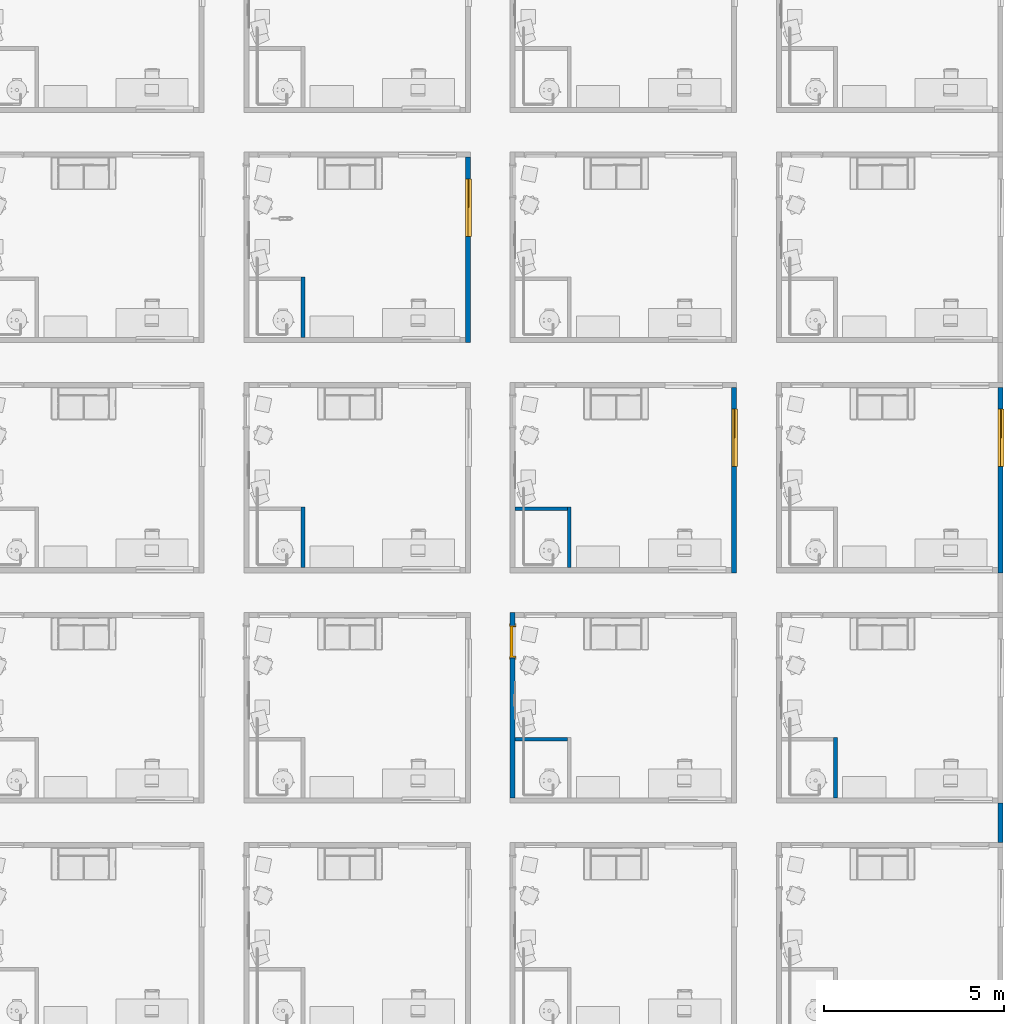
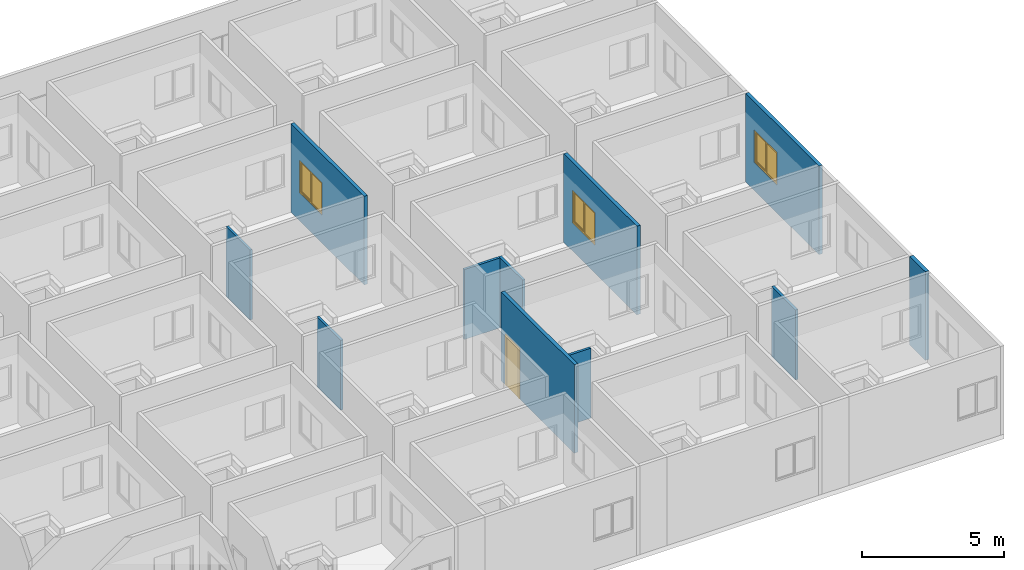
# One storey, part 9 of 71: 11 walls, 3 windows, 1 door, 4 openings.
"""IFC4 building model written with IfcOpenShell, lengths in centimetres."""

from ifc_helpers import new_model, entity, si_unit, converted_unit, derived_unit, direction, frame, origin, place, context, subcontext, project, spatial, indexed_curve, outline, extrude, polygons, source, transform, mapped, material, constituent, constituent_set, type_object, type_shapes, element, fill, save


model = new_model("IFC4")

# Units and contexts
model_context = context("Model", 3, precision=0.001, world=origin(), true_north=direction((6.123233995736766e-17, 1.0)))
body_context = subcontext(model_context, "Body", "Model", "MODEL_VIEW")
ifc_project = project(units=[si_unit("LENGTHUNIT", "METRE", prefix="CENTI"), si_unit("AREAUNIT", "SQUARE_METRE"), si_unit("VOLUMEUNIT", "CUBIC_METRE"), derived_unit("THERMALTRANSMITTANCEUNIT", [(si_unit("MASSUNIT", "GRAM", prefix="KILO"), 1), (si_unit("THERMODYNAMICTEMPERATUREUNIT", "KELVIN"), -1), (si_unit("TIMEUNIT", "SECOND"), -3)]), converted_unit("PLANEANGLEUNIT", "DEGREE", entity("IfcPlaneAngleMeasure", 0.017453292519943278), si_unit("PLANEANGLEUNIT", "RADIAN"), dimensions=[0, 0, 0, 0, 0, 0, 0]), derived_unit("MASSDENSITYUNIT", [(si_unit("MASSUNIT", "GRAM", prefix="KILO"), 1), (si_unit("LENGTHUNIT", "METRE"), -3)]), derived_unit("VAPORPERMEABILITYUNIT", [(si_unit("LENGTHUNIT", "METRE"), -1), (si_unit("TIMEUNIT", "SECOND"), 1)]), derived_unit("USERDEFINED", [(si_unit("MASSUNIT", "GRAM", prefix="KILO"), 1), (si_unit("TIMEUNIT", "SECOND"), -3), (si_unit("LENGTHUNIT", "METRE"), 3), (si_unit("ELECTRICCURRENTUNIT", "AMPERE"), -2)]), derived_unit("SPECIFICHEATCAPACITYUNIT", [(si_unit("THERMODYNAMICTEMPERATUREUNIT", "KELVIN"), -1), (si_unit("LENGTHUNIT", "METRE"), 2), (si_unit("TIMEUNIT", "SECOND"), -2)]), derived_unit("THERMALCONDUCTANCEUNIT", [(si_unit("MASSUNIT", "GRAM", prefix="KILO"), 1), (si_unit("THERMODYNAMICTEMPERATUREUNIT", "KELVIN"), -1), (si_unit("TIMEUNIT", "SECOND"), -3), (si_unit("LENGTHUNIT", "METRE"), 1)]), si_unit("PRESSUREUNIT", "PASCAL"), derived_unit("MODULUSOFELASTICITYUNIT", [(si_unit("MASSUNIT", "GRAM", prefix="KILO"), 1), (si_unit("LENGTHUNIT", "METRE"), -1), (si_unit("TIMEUNIT", "SECOND"), -2)]), derived_unit("THERMALEXPANSIONCOEFFICIENTUNIT", [(si_unit("THERMODYNAMICTEMPERATUREUNIT", "KELVIN"), -1)])], contexts=[model_context])

# Site, building, storey
site_placement = place(None, origin())
site = spatial("IfcSite", under=ifc_project, at=site_placement, Name="Default", CompositionType="ELEMENT")
building_placement = place(site_placement, origin())
building = spatial("IfcBuilding", under=site, at=building_placement, Name="IDS Escape Game Building", CompositionType="ELEMENT")
storey_placement = place(building_placement, frame((0.0, 0.0, 400.0)))
storey = spatial("IfcBuildingStorey", under=building, at=storey_placement, Name="01_First Floor", CompositionType="ELEMENT", Elevation=399.99999999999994)

# Wall, opening, door
ifc_material_1 = material(Name="ARC_FME.g2_Fg2 Masonry_00_gen_BERSnl", Category="g - klei")
wall_type_1 = type_object("IfcWallType", Name="Basic Wall:ARC_22.10_WA_LB_SB14_gen_BERSnl", PredefinedType="STANDARD")
wall_1_placement = place(storey_placement, frame((3690.0, 1165.0, 0.0), z_axis=(0.0, 0.0, 1.0), x_axis=(0.0, -1.0, 0.0)))
wall_1 = element("IfcWall", 1, at=wall_1_placement, inside=storey, type_object=wall_type_1, material=ifc_material_1, Name="Basic Wall:ARC_22.10_WA_LB_SB14_gen_BERSnl", ObjectType="Basic Wall:ARC_22.10_WA_LB_SB14_gen_BERSnl", PredefinedType="NOTDEFINED", context=body_context, shape_type="Tessellation", body=[
    polygons([(514.0000000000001, -6.999999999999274, 379.9999999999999), (0.0, -6.999999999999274, 379.9999999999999), (0.0, -6.999999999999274, 0.0), (35.99999999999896, -6.999999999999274, 0.0), (35.99999999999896, -6.999999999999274, 215.00000000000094), (125.99999999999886, -6.999999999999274, 215.00000000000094), (125.99999999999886, -6.999999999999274, 0.0), (514.0000000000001, -6.999999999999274, 0.0), (0.0, 7.000000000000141, 379.9999999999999), (14.000000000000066, 7.000000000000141, 380.0), (514.0000000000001, 7.000000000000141, 379.9999999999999), (514.0000000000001, 7.000000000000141, 0.0), (355.99999999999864, 7.000000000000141, 0.0), (345.99999999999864, 7.000000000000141, 0.0), (125.99999999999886, 7.000000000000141, 0.0), (125.99999999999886, 7.000000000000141, 215.00000000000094), (35.99999999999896, 7.000000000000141, 215.00000000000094), (35.99999999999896, 7.000000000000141, 0.0), (14.000000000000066, 7.000000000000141, 0.0), (0.0, 7.000000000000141, 0.0)], [[[1, 2, 3, 4, 5, 6, 7, 8]], [[9, 10, 11, 12, 13, 14, 15, 16, 17, 18, 19, 20]], [[3, 20, 19, 18, 4]], [[2, 1, 11, 10, 9]], [[17, 5, 4, 18]], [[6, 16, 15, 7]], [[5, 17, 16, 6]], [[3, 2, 9, 20]], [[1, 8, 12, 11]], [[12, 8, 7, 15, 14, 13]]], closed=True),
])
opening_1_placement = place(wall_1_placement, frame((1165.0, -3690.0, 0.0), z_axis=(0.0, 0.0, 1.0), x_axis=(0.0, 1.0, 0.0)))
opening_1 = element("IfcOpeningElement", 2, at=opening_1_placement, cuts=wall_1, Name="Basic Wall:ARC_22.10_WA_LB_SB14_gen_BERSnl", PredefinedType="OPENING", context=body_context, shape_type="SweptSolid", body=[
    extrude(outline(indexed_curve([(-137.49999999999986, -44.99999999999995), (137.49999999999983, -44.99999999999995), (137.49999999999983, 44.99999999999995), (-137.49999999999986, 44.99999999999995), (-137.49999999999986, -44.99999999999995)], self_intersect=False)), frame((3600.0, 1084.0, 77.50000000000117), z_axis=(1.0, 0.0, 0.0), x_axis=(0.0, 0.0, 1.0)), (0.0, 0.0, 1.0), 166.00000000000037),
])
ifc_material_2 = material(Name="ARC_FME.i3_wood_00_gen_BERSnl", Category="i - hout")
door_type = type_object("IfcDoorType", Name="ARC_32.30_DO_WB_binnendeur enkel draaiend met void_gen_BERSnl:Fire Exit_830x2115_EI60", OperationType="SINGLE_SWING_RIGHT", PredefinedType="DOOR", material=ifc_material_2)
shared_shape_1 = source(origin(), body_context, "Body", "Tessellation", [
    extrude(outline(indexed_curve([(-41.49999999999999, -3.749999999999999), (41.49999999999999, -3.749999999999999), (41.49999999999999, 3.75), (-41.49999999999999, 3.75), (-41.49999999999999, -3.749999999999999)], self_intersect=False)), frame((45.0, 79.24999999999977, 60.0), z_axis=(0.0, 0.0, 1.0), x_axis=(-1.0, 0.0, 0.0)), (0.0, 0.0, 1.0), 211.50000000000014),
    polygons([(88.99999999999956, 82.99999999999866, 59.999999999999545), (88.9999999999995, 67.99999999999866, 59.999999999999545), (94.99999999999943, 67.99999999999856, 59.999999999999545), (94.99999999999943, 66.49999999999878, 59.999999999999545), (84.99999999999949, 66.4999999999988, 59.999999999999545), (84.99999999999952, 75.49999999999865, 59.999999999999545), (86.49999999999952, 75.49999999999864, 59.999999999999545), (86.49999999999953, 84.49999999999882, 59.999999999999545), (94.99999999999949, 84.49999999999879, 59.999999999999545), (94.99999999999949, 82.99999999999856, 59.999999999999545), (88.99999999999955, 82.99999999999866, 274.0000000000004), (88.9999999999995, 67.99999999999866, 274.0000000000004), (0.9999999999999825, 67.99999999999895, 274.0000000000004), (0.9999999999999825, 67.99999999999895, 59.99999999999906), (-4.999999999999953, 67.99999999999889, 59.99999999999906), (-4.999999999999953, 67.99999999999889, 280.00000000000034), (94.99999999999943, 67.99999999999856, 280.00000000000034), (94.99999999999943, 66.49999999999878, 280.00000000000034), (-4.999999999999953, 66.4999999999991, 280.00000000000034), (-4.999999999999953, 66.4999999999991, 59.99999999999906), (4.999999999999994, 66.49999999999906, 59.99999999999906), (4.999999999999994, 66.49999999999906, 270.00000000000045), (84.99999999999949, 66.4999999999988, 270.00000000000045), (84.99999999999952, 75.49999999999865, 270.00000000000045), (5.000000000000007, 75.4999999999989, 270.00000000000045), (5.0, 75.4999999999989, 59.99999999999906), (3.5000000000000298, 75.4999999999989, 59.99999999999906), (3.500000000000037, 75.4999999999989, 271.50000000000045), (86.4999999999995, 75.49999999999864, 271.50000000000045), (86.49999999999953, 84.49999999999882, 271.50000000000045), (3.5000000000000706, 84.49999999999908, 271.50000000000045), (3.500000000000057, 84.49999999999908, 59.99999999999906), (-4.999999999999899, 84.4999999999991, 59.99999999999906), (-4.999999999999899, 84.4999999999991, 280.00000000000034), (94.99999999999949, 84.49999999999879, 280.00000000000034), (94.99999999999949, 82.99999999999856, 280.00000000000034), (-4.999999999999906, 82.99999999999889, 280.00000000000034), (-4.999999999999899, 82.99999999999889, 59.99999999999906), (1.0000000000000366, 82.99999999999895, 59.99999999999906), (1.0000000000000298, 82.99999999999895, 274.0000000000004)], [[[1, 2, 3, 4, 5, 6, 7, 8, 9, 10]], [[2, 1, 11, 12]], [[3, 2, 12, 13, 14, 15, 16, 17]], [[4, 3, 17, 18]], [[5, 4, 18, 19, 20, 21, 22, 23]], [[6, 5, 23, 24]], [[7, 6, 24, 25, 26, 27, 28, 29]], [[8, 7, 29, 30]], [[9, 8, 30, 31, 32, 33, 34, 35]], [[10, 9, 35, 36]], [[1, 10, 36, 37, 38, 39, 40, 11]], [[37, 34, 33, 38]], [[39, 38, 33, 32, 27, 26, 21, 20, 15, 14]], [[13, 40, 39, 14]], [[31, 28, 27, 32]], [[25, 22, 21, 26]], [[19, 16, 15, 20]], [[36, 35, 34, 37]], [[30, 29, 28, 31]], [[24, 23, 22, 25]], [[18, 17, 16, 19]], [[12, 11, 40, 13]]], closed=True),
])
type_shapes(door_type, [shared_shape_1])
door_placement = place(opening_1_placement, frame((3766.0, 1039.0, -60.0), z_axis=(0.0, 0.0, 1.0), x_axis=(0.0, 1.0, 0.0)))
door = element("IfcDoor", 3, at=door_placement, inside=storey, type_object=door_type, material=ifc_material_2, Name="ARC_32.30_DO_WB_binnendeur enkel draaiend met void_gen_BERSnl:Fire Exit_830x2115_EI60", ObjectType="ARC_32.30_DO_WB_binnendeur enkel draaiend met void_gen_BERSnl:Fire Exit_830x2115_EI60", OverallHeight=274.99999999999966, OverallWidth=89.9999999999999, PredefinedType="DOOR", context=body_context, shape_type="MappedRepresentation", body=[
    mapped(shared_shape_1, transform((0.0, 0.0, 0.0), scale=1.0)),
])
fill(opening_1, door)

# Wall, opening, window
wall_2_placement = place(storey_placement, frame((4304.0, 1275.0, 0.0), z_axis=(0.0, 0.0, 1.0), x_axis=(0.0, 1.0, 0.0)))
wall_2 = element("IfcWall", 4, at=wall_2_placement, inside=storey, type_object=wall_type_1, material=ifc_material_1, Name="Basic Wall:ARC_22.10_WA_LB_SB14_gen_BERSnl", ObjectType="Basic Wall:ARC_22.10_WA_LB_SB14_gen_BERSnl", PredefinedType="NOTDEFINED", context=body_context, shape_type="Tessellation", body=[
    polygons([(0.0, -7.000000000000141, 0.0), (514.0000000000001, -7.000000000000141, 0.0), (514.0000000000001, -7.000000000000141, 379.9999999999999), (0.0, -7.000000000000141, 379.9999999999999), (454.00000000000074, -7.000000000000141, 260.0000000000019), (454.00000000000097, -7.000000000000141, 120.0), (294.00000000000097, -7.000000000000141, 120.0), (294.00000000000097, -7.000000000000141, 260.0000000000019), (454.00000000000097, 7.000000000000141, 120.0), (454.00000000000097, 7.000000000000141, 260.0000000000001), (294.00000000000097, 7.000000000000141, 260.0000000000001), (294.00000000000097, 7.000000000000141, 120.0), (0.0, 7.000000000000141, 0.0), (0.0, 7.000000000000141, 379.9999999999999), (14.000000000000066, 7.000000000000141, 380.0), (514.0000000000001, 7.000000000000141, 379.9999999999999), (514.0000000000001, 7.000000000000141, 0.0), (14.000000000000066, 7.000000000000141, 0.0)], [[[1, 2, 3, 4], [5, 6, 7, 8]], [[13, 14, 15, 16, 17, 18], [9, 10, 11, 12]], [[2, 1, 13, 18, 17]], [[4, 3, 16, 15, 14]], [[10, 9, 6, 5]], [[7, 12, 11, 8]], [[10, 5, 8, 11]], [[12, 7, 6, 9]], [[1, 4, 14, 13]], [[3, 2, 17, 16]]], closed=True),
])
opening_2_placement = place(wall_2_placement, frame((-1275.0, 4304.0, 120.0), z_axis=(0.0, 0.0, 1.0), x_axis=(0.0, -1.0, 0.0)))
opening_2 = element("IfcOpeningElement", 5, at=opening_2_placement, cuts=wall_2, Name="Basic Wall:ARC_22.10_WA_LB_SB14_gen_BERSnl", PredefinedType="OPENING", context=body_context, shape_type="Tessellation", body=[
    polygons([(4297.0, 1729.0000000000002, 0.0), (4297.0, 1729.0000000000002, -1.0), (4292.000000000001, 1729.0000000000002, -1.0), (4292.000000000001, 1729.0000000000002, 0.0), (4297.0, 1569.0000000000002, 0.0), (4292.000000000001, 1569.0000000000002, 0.0), (4292.000000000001, 1569.0000000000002, -1.0), (4297.0, 1569.0000000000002, -1.0), (4297.0, 1724.0000000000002, 0.0), (4297.0, 1574.0000000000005, 0.0), (4292.000000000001, 1574.0000000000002, 0.0), (4291.999999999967, 1574.0000000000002, 134.99999999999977), (4291.999999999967, 1724.0000000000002, 134.99999999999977), (4292.000000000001, 1724.0000000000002, 0.0), (4316.036825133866, 1729.0000000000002, 0.0), (4296.999999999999, 1729.0000000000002, 0.0), (4296.999999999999, 1729.0000000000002, 140.00000000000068), (4316.036825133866, 1729.0000000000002, 140.00000000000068), (4316.036825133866, 1569.0000000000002, 140.0000000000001), (4296.999999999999, 1569.0000000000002, 140.0000000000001), (4296.999999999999, 1569.0000000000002, 0.0), (4316.036825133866, 1569.0000000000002, 0.0), (4296.999999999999, 1724.0000000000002, 134.99999999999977), (4296.999999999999, 1574.0000000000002, 134.99999999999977)], [[[1, 2, 3, 4]], [[5, 6, 7, 8]], [[1, 9, 10, 5, 8, 2]], [[2, 8, 7, 3]], [[3, 7, 6, 11, 12, 13, 14, 4]], [[4, 14, 9, 1]], [[15, 16, 17, 18]], [[19, 20, 21, 22]], [[18, 17, 20, 19]], [[18, 19, 22, 15]], [[17, 16, 9, 23, 24, 10, 21, 20]], [[22, 21, 10, 9, 16, 15]], [[11, 10, 24, 12]], [[13, 23, 9, 14]], [[12, 24, 23, 13]], [[5, 10, 11, 6]]], closed=True),
])
ifc_material_3 = material(Name="<Unnamed>")
ifc_constituent_1 = constituent(ifc_material_3, Name="<Unnamed>", fraction=0.0)
ifc_material_4 = material(Name="ARC_FME.o1_glass_00_gen_BERSnl", Category="o - glas")
ifc_constituent_2 = constituent(ifc_material_4, Name="ARC_FME.o1_glass_00_gen_BERSnl", Category="o - glas", fraction=1.0)
ifc_constituent_set_1 = constituent_set(constituents=[ifc_constituent_1, ifc_constituent_2])
ifc_constituent_3 = constituent(ifc_material_3, Name="BE Tablet", fraction=0.0)
ifc_constituent_4 = constituent(ifc_material_3, Name="Frame/Mullion", fraction=0.0)
ifc_constituent_5 = constituent(ifc_material_4, Name="Glass", Category="o - glas", fraction=1.0)
ifc_constituent_set_2 = constituent_set(constituents=[ifc_constituent_3, ifc_constituent_4, ifc_constituent_5])
window_type = type_object("IfcWindowType", Name="ARC_31_WI_WB_Dubbel Raam-Recht-Vast en Draaiend_gen_BERSnl:Links-Draaiend / Rechts-Draaiend", PartitioningType="NOTDEFINED", PredefinedType="WINDOW", material=ifc_constituent_set_2)
shared_shape_2 = source(origin(), body_context, "Body", "Tessellation", [
    extrude(outline(indexed_curve([(-80.00000000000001, -4.999999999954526), (80.00000000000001, -4.999999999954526), (80.00000000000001, 4.999999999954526), (-80.00000000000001, 4.999999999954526), (-80.00000000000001, -4.999999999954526)], self_intersect=False)), frame((80.0, 7.036825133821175, 1.0), z_axis=(0.0, 0.0, 1.0), x_axis=(-1.0, 0.0, 0.0)), (0.0, 0.0, 1.0), 2.000000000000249),
    extrude(outline(indexed_curve([(-2.9999999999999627, -3.000000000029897), (-7.656209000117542e-14, -3.000000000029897), (-7.064016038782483e-14, 5.979964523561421e-11), (3.0000000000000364, 5.978991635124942e-11), (3.0000000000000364, 2.9999999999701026), (-2.9999999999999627, 2.9999999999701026), (-2.9999999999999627, -3.000000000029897)], self_intersect=False)), frame((80.0, 15.03682513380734, 7.0)), (0.0, 0.0, 1.0), 128.00000000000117),
    extrude(outline(indexed_curve([(-35.499999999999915, -1.2000000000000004), (35.499999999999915, -1.2000000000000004), (35.49999999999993, 1.2), (-35.499999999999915, 1.2), (-35.499999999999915, -1.2000000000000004)], self_intersect=False)), frame((41.50000000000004, 15.036825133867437, 7.0), z_axis=(0.0, 0.0, 1.0), x_axis=(-1.0, 0.0, 0.0)), (0.0, 0.0, 1.0), 128.000000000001),
    extrude(outline(indexed_curve([(-67.00000000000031, -38.500000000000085), (67.00000000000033, -38.5000000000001), (67.00000000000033, 38.50000000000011), (-67.00000000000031, 38.50000000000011), (-67.00000000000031, -38.500000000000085)], self_intersect=False), holes=[indexed_curve([(61.00000000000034, -32.50000000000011), (-61.00000000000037, -32.500000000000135), (-61.00000000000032, 32.50000000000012), (61.00000000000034, 32.50000000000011), (61.00000000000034, -32.50000000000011)], self_intersect=False)]), frame((118.5, 9.03682513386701, 71.0), z_axis=(0.0, 1.0, 0.0), x_axis=(0.0, 0.0, -1.0)), (0.0, 0.0, 1.0), 6.0),
    extrude(outline(indexed_curve([(-32.500000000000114, -1.2000000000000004), (32.500000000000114, -1.2000000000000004), (32.500000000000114, 1.2000000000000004), (-32.500000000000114, 1.2000000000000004), (-32.500000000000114, -1.2000000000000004)], self_intersect=False)), frame((118.5, 12.036825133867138, 10.0), z_axis=(0.0, 0.0, 1.0), x_axis=(-1.0, 0.0, 0.0)), (0.0, 0.0, 1.0), 122.00000000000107),
    polygons([(160.00000000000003, 18.03682513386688, 141.00000000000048), (160.00000000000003, 18.03682513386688, 1.0000000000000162), (4.0607517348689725e-14, 18.036825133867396, 1.0000000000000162), (4.0607517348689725e-14, 18.036825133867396, 141.00000000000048), (6.000000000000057, 18.03682513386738, 135.00000000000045), (6.000000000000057, 18.03682513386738, 7.000000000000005), (76.99999999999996, 18.03682513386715, 7.000000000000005), (154.00000000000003, 18.0368251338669, 7.000000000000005), (154.00000000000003, 18.0368251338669, 135.00000000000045), (76.99999999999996, 18.03682513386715, 135.00000000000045), (160.0, 12.03682513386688, 141.00000000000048), (160.0, 12.03682513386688, 1.0000000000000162), (2.7071678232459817e-14, 12.036825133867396, 1.0000000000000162), (2.7071678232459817e-14, 12.036825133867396, 141.00000000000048), (6.000000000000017, 12.036825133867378, 135.00000000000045), (6.000000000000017, 12.036825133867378, 7.000000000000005), (76.99999999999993, 12.036825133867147, 7.000000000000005), (79.99999999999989, 12.036825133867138, 7.000000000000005), (79.9999999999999, 15.036825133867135, 7.000000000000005), (154.00000000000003, 15.0368251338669, 7.000000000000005), (154.00000000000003, 15.036825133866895, 135.00000000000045), (76.99999999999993, 12.036825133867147, 135.00000000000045), (79.99999999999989, 12.036825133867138, 135.00000000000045), (79.99999999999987, 12.036825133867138, 138.00000000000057), (157.00000000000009, 12.036825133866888, 138.00000000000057), (157.00000000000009, 12.036825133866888, 3.9999999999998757), (79.99999999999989, 12.036825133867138, 3.9999999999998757), (157.0000000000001, 15.036825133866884, 3.9999999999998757), (157.0000000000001, 15.036825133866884, 138.00000000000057), (79.99999999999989, 15.036825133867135, 3.9999999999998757), (79.99999999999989, 15.036825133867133, 138.00000000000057), (79.99999999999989, 15.036825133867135, 135.00000000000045)], [[[1, 2, 3, 4], [5, 6, 7, 8, 9, 10]], [[2, 1, 11, 12]], [[3, 2, 12, 13]], [[4, 3, 13, 14]], [[6, 5, 15, 16]], [[6, 16, 17, 18, 19, 20, 8, 7]], [[9, 8, 20, 21]], [[11, 14, 13, 12], [16, 15, 22, 23, 24, 25, 26, 27, 18, 17]], [[28, 26, 25, 29]], [[30, 27, 26, 28]], [[31, 24, 23, 32]], [[30, 28, 29, 31, 32, 21, 20, 19]], [[1, 4, 14, 11]], [[15, 5, 10, 9, 21, 32, 23, 22]], [[24, 31, 29, 25]], [[27, 30, 19, 18]]], closed=True),
])
type_shapes(window_type, [shared_shape_2])
window_1_placement = place(opening_2_placement, frame((4316.036825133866, 1569.0, -1.0), z_axis=(0.0, 0.0, 1.0), x_axis=(0.0, 1.0, 0.0)))
window_1 = element("IfcWindow", 6, at=window_1_placement, inside=storey, type_object=window_type, material=ifc_constituent_set_1, Name="ARC_31_WI_WB_Dubbel Raam-Recht-Vast en Draaiend_gen_BERSnl:Links-Draaiend / Rechts-Draaiend", ObjectType="ARC_31_WI_WB_Dubbel Raam-Recht-Vast en Draaiend_gen_BERSnl:Links-Draaiend / Rechts-Draaiend", OverallHeight=140.00000000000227, OverallWidth=160.0000000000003, PartitioningType="NOTDEFINED", PredefinedType="WINDOW", context=body_context, shape_type="MappedRepresentation", body=[
    mapped(shared_shape_2, transform((0.0, 0.0, 0.0), scale=1.0)),
])
fill(opening_2, window_1)

wall_3_placement = place(storey_placement, frame((5042.0, 1275.0, 0.0), z_axis=(0.0, 0.0, 1.0), x_axis=(0.0, 1.0, 0.0)))
wall_3 = element("IfcWall", 7, at=wall_3_placement, inside=storey, type_object=wall_type_1, material=ifc_material_1, Name="Basic Wall:ARC_22.10_WA_LB_SB14_gen_BERSnl", ObjectType="Basic Wall:ARC_22.10_WA_LB_SB14_gen_BERSnl", PredefinedType="NOTDEFINED", context=body_context, shape_type="Tessellation", body=[
    polygons([(0.0, -7.000000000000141, 0.0), (514.0000000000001, -7.000000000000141, 0.0), (514.0000000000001, -7.000000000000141, 379.9999999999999), (0.0, -7.000000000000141, 379.9999999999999), (454.00000000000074, -7.000000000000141, 260.0000000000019), (454.00000000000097, -7.000000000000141, 120.0), (294.00000000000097, -7.000000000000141, 120.0), (294.00000000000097, -7.000000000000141, 260.0000000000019), (454.00000000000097, 7.000000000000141, 120.0), (454.00000000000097, 7.000000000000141, 260.0000000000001), (294.00000000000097, 7.000000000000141, 260.0000000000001), (294.00000000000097, 7.000000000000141, 120.0), (0.0, 7.000000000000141, 0.0), (0.0, 7.000000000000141, 379.9999999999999), (14.000000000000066, 7.000000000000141, 380.0), (514.0000000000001, 7.000000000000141, 379.9999999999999), (514.0000000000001, 7.000000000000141, 0.0), (14.000000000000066, 7.000000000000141, 0.0)], [[[1, 2, 3, 4], [5, 6, 7, 8]], [[13, 14, 15, 16, 17, 18], [9, 10, 11, 12]], [[2, 1, 13, 18, 17]], [[4, 3, 16, 15, 14]], [[10, 9, 6, 5]], [[7, 12, 11, 8]], [[10, 5, 8, 11]], [[12, 7, 6, 9]], [[1, 4, 14, 13]], [[3, 2, 17, 16]]], closed=True),
])
opening_3_placement = place(wall_3_placement, frame((-1275.0, 5042.0, 120.0), z_axis=(0.0, 0.0, 1.0), x_axis=(0.0, -1.0, 0.0)))
opening_3 = element("IfcOpeningElement", 8, at=opening_3_placement, cuts=wall_3, Name="Basic Wall:ARC_22.10_WA_LB_SB14_gen_BERSnl", PredefinedType="OPENING", context=body_context, shape_type="Tessellation", body=[
    polygons([(5035.0, 1729.0000000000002, 0.0), (5035.0, 1729.0000000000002, -1.0), (5030.0, 1729.0000000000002, -1.0), (5030.0, 1729.0000000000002, 0.0), (5035.0, 1569.0000000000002, 0.0), (5030.0, 1569.0000000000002, 0.0), (5030.0, 1569.0000000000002, -1.0), (5035.0, 1569.0000000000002, -1.0), (5034.999999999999, 1724.0000000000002, 0.0), (5035.0, 1574.0000000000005, 0.0), (5030.0, 1574.0000000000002, 0.0), (5029.999999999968, 1574.0000000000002, 134.99999999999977), (5029.999999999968, 1724.0000000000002, 134.99999999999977), (5030.0, 1724.0000000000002, 0.0), (5054.036825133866, 1729.0000000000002, 0.0), (5034.999999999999, 1729.0000000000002, 0.0), (5034.999999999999, 1729.0000000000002, 140.00000000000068), (5054.036825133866, 1729.0000000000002, 140.00000000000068), (5054.036825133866, 1569.0000000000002, 140.0000000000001), (5034.999999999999, 1569.0000000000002, 140.0000000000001), (5034.999999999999, 1569.0000000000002, 0.0), (5054.036825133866, 1569.0000000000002, 0.0), (5034.999999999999, 1724.0000000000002, 134.99999999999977), (5034.999999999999, 1574.0000000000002, 134.99999999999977)], [[[1, 2, 3, 4]], [[5, 6, 7, 8]], [[1, 9, 10, 5, 8, 2]], [[2, 8, 7, 3]], [[3, 7, 6, 11, 12, 13, 14, 4]], [[4, 14, 9, 1]], [[15, 16, 17, 18]], [[19, 20, 21, 22]], [[18, 17, 20, 19]], [[18, 19, 22, 15]], [[17, 16, 9, 23, 24, 10, 21, 20]], [[22, 21, 10, 9, 16, 15]], [[11, 10, 24, 12]], [[13, 23, 9, 14]], [[12, 24, 23, 13]], [[5, 10, 11, 6]]], closed=True),
])
ifc_constituent_6 = constituent(ifc_material_3, Name="<Unnamed>", fraction=0.0)
ifc_constituent_7 = constituent(ifc_material_4, Name="ARC_FME.o1_glass_00_gen_BERSnl", Category="o - glas", fraction=1.0)
ifc_constituent_set_3 = constituent_set(constituents=[ifc_constituent_6, ifc_constituent_7])
window_2_placement = place(opening_3_placement, frame((5054.036825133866, 1569.0, -1.0), z_axis=(0.0, 0.0, 1.0), x_axis=(0.0, 1.0, 0.0)))
window_2 = element("IfcWindow", 9, at=window_2_placement, inside=storey, type_object=window_type, material=ifc_constituent_set_3, Name="ARC_31_WI_WB_Dubbel Raam-Recht-Vast en Draaiend_gen_BERSnl:Links-Draaiend / Rechts-Draaiend", ObjectType="ARC_31_WI_WB_Dubbel Raam-Recht-Vast en Draaiend_gen_BERSnl:Links-Draaiend / Rechts-Draaiend", OverallHeight=140.00000000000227, OverallWidth=160.0000000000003, PartitioningType="NOTDEFINED", PredefinedType="WINDOW", context=body_context, shape_type="MappedRepresentation", body=[
    mapped(shared_shape_2, transform((0.0, 0.0, 0.0), scale=1.0)),
])
fill(opening_3, window_2)

wall_4_placement = place(storey_placement, frame((3566.0, 1913.0, 0.0), z_axis=(0.0, 0.0, 1.0), x_axis=(0.0, 1.0, 0.0)))
wall_4 = element("IfcWall", 10, at=wall_4_placement, inside=storey, type_object=wall_type_1, material=ifc_material_1, Name="Basic Wall:ARC_22.10_WA_LB_SB14_gen_BERSnl", ObjectType="Basic Wall:ARC_22.10_WA_LB_SB14_gen_BERSnl", PredefinedType="NOTDEFINED", context=body_context, shape_type="Tessellation", body=[
    polygons([(0.0, -6.999999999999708, 0.0), (513.9999999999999, -6.999999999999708, 0.0), (513.9999999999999, -6.999999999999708, 379.9999999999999), (0.0, -6.999999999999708, 379.9999999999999), (454.0000000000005, -6.999999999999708, 260.0000000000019), (454.00000000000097, -6.999999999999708, 120.0), (294.00000000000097, -6.999999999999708, 120.0), (294.00000000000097, -6.999999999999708, 260.0000000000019), (454.00000000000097, 7.000000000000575, 120.0), (454.00000000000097, 7.000000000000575, 260.0000000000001), (294.00000000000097, 7.000000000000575, 260.0000000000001), (294.00000000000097, 7.000000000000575, 120.0), (0.0, 7.000000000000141, 0.0), (0.0, 7.000000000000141, 379.9999999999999), (14.000000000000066, 7.000000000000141, 380.0), (513.9999999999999, 7.000000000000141, 379.9999999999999), (513.9999999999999, 7.000000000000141, 0.0), (14.000000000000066, 7.000000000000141, 0.0)], [[[1, 2, 3, 4], [5, 6, 7, 8]], [[13, 14, 15, 16, 17, 18], [9, 10, 11, 12]], [[2, 1, 13, 18, 17]], [[4, 3, 16, 15, 14]], [[10, 9, 6, 5]], [[7, 12, 11, 8]], [[10, 5, 8, 11]], [[12, 7, 6, 9]], [[1, 4, 14, 13]], [[3, 2, 17, 16]]], closed=True),
])
opening_4_placement = place(wall_4_placement, frame((-1913.0, 3566.0, 120.0), z_axis=(0.0, 0.0, 1.0), x_axis=(0.0, -1.0, 0.0)))
opening_4 = element("IfcOpeningElement", 11, at=opening_4_placement, cuts=wall_4, Name="Basic Wall:ARC_22.10_WA_LB_SB14_gen_BERSnl", PredefinedType="OPENING", context=body_context, shape_type="Tessellation", body=[
    polygons([(3558.9999999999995, 2367.0000000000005, 0.0), (3558.9999999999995, 2367.0000000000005, -1.0), (3553.9999999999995, 2367.0000000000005, -1.0), (3553.9999999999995, 2367.0000000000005, 0.0), (3558.9999999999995, 2207.0000000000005, 0.0), (3553.9999999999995, 2207.0000000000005, 0.0), (3553.9999999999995, 2207.0000000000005, -1.0), (3558.9999999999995, 2207.0000000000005, -1.0), (3558.9999999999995, 2362.0000000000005, 0.0), (3558.999999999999, 2212.0000000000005, 0.0), (3554.0, 2212.0000000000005, 0.0), (3553.999999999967, 2212.0, 134.99999999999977), (3553.999999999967, 2362.0000000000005, 134.99999999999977), (3554.0, 2362.0000000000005, 0.0), (3578.0368251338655, 2367.0000000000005, 0.0), (3558.999999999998, 2367.0000000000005, 0.0), (3558.9999999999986, 2367.0000000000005, 140.00000000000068), (3578.0368251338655, 2367.0000000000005, 140.00000000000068), (3578.0368251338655, 2207.0000000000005, 140.0000000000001), (3558.999999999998, 2207.0000000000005, 140.0000000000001), (3558.999999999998, 2207.0000000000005, 0.0), (3578.0368251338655, 2207.0000000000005, 0.0), (3558.9999999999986, 2362.0000000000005, 134.99999999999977), (3558.999999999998, 2212.0, 134.99999999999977)], [[[1, 2, 3, 4]], [[5, 6, 7, 8]], [[1, 9, 10, 5, 8, 2]], [[2, 8, 7, 3]], [[3, 7, 6, 11, 12, 13, 14, 4]], [[4, 14, 9, 1]], [[15, 16, 17, 18]], [[19, 20, 21, 22]], [[18, 17, 20, 19]], [[18, 19, 22, 15]], [[17, 16, 9, 23, 24, 10, 21, 20]], [[22, 21, 10, 9, 16, 15]], [[11, 10, 24, 12]], [[13, 23, 9, 14]], [[12, 24, 23, 13]], [[5, 10, 11, 6]]], closed=True),
])
ifc_constituent_8 = constituent(ifc_material_3, Name="<Unnamed>", fraction=0.0)
ifc_constituent_9 = constituent(ifc_material_4, Name="ARC_FME.o1_glass_00_gen_BERSnl", Category="o - glas", fraction=1.0)
ifc_constituent_set_4 = constituent_set(constituents=[ifc_constituent_8, ifc_constituent_9])
window_3_placement = place(opening_4_placement, frame((3578.0368251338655, 2207.0, -1.0), z_axis=(0.0, 0.0, 1.0), x_axis=(0.0, 1.0, 0.0)))
window_3 = element("IfcWindow", 12, at=window_3_placement, inside=storey, type_object=window_type, material=ifc_constituent_set_4, Name="ARC_31_WI_WB_Dubbel Raam-Recht-Vast en Draaiend_gen_BERSnl:Links-Draaiend / Rechts-Draaiend", ObjectType="ARC_31_WI_WB_Dubbel Raam-Recht-Vast en Draaiend_gen_BERSnl:Links-Draaiend / Rechts-Draaiend", OverallHeight=140.00000000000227, OverallWidth=160.0000000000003, PartitioningType="NOTDEFINED", PredefinedType="WINDOW", context=body_context, shape_type="MappedRepresentation", body=[
    mapped(shared_shape_2, transform((0.0, 0.0, 0.0), scale=1.0)),
])
fill(opening_4, window_3)

# Walls
wall_5_placement = place(storey_placement, frame((5042.0, 637.0, 0.0), z_axis=(0.0, 0.0, 1.0), x_axis=(0.0, -1.0, 0.0)))
element("IfcWall", 13, at=wall_5_placement, inside=storey, type_object=wall_type_1, material=ifc_material_1, Name="Basic Wall:ARC_22.10_WA_LB_SB14_gen_BERSnl", ObjectType="Basic Wall:ARC_22.10_WA_LB_SB14_gen_BERSnl", PredefinedType="NOTDEFINED", context=body_context, shape_type="SweptSolid", body=[
    extrude(outline(indexed_curve([(110.00000000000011, 7.000000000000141), (0.0, 7.000000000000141), (0.0, -7.000000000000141), (110.00000000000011, -7.000000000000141), (110.00000000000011, 7.000000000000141)], self_intersect=False)), origin(), (0.0, 0.0, 1.0), 380.0),
])
ifc_material_5 = material(Name="ARC_FME.r2_Plaster_white_gen_BERSnl", Category="r - klei, gips, magnesium en kunststof bindmiddelen")
wall_type_2 = type_object("IfcWallType", Name="Basic Wall:ARC_22.10_WA_LB_GPS10_gen_BERSnl", PredefinedType="STANDARD")
wall_6_placement = place(storey_placement, frame((3842.0, 814.0, 0.0), z_axis=(0.0, 0.0, 1.0), x_axis=(-1.0, 0.0, 0.0)))
element("IfcWall", 14, at=wall_6_placement, inside=storey, type_object=wall_type_2, material=ifc_material_5, Name="Basic Wall:ARC_22.10_WA_LB_GPS10_gen_BERSnl", ObjectType="Basic Wall:ARC_22.10_WA_LB_GPS10_gen_BERSnl", PredefinedType="NOTDEFINED", context=body_context, shape_type="SweptSolid", body=[
    extrude(outline(indexed_curve([(144.99999999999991, 4.99999999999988), (-1.6380951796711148e-14, 4.999999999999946), (1.6380951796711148e-14, -4.999999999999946), (144.99999999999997, -5.000000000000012), (144.99999999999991, 4.99999999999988)], self_intersect=False)), origin(), (0.0, 0.0, 1.0), 300.0),
])
wall_7_placement = place(storey_placement, frame((4585.0, 651.0, 0.0), z_axis=(0.0, 0.0, 1.0), x_axis=(0.0, 1.0, 0.0)))
element("IfcWall", 15, at=wall_7_placement, inside=storey, type_object=wall_type_2, material=ifc_material_5, Name="Basic Wall:ARC_22.10_WA_LB_GPS10_gen_BERSnl", ObjectType="Basic Wall:ARC_22.10_WA_LB_GPS10_gen_BERSnl", PredefinedType="NOTDEFINED", context=body_context, shape_type="SweptSolid", body=[
    extrude(outline(indexed_curve([(168.00000000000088, 4.9999999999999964), (-7.95602729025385e-15, 4.999999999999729), (7.95602729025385e-15, -4.999999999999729), (168.00000000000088, -4.999999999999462), (168.00000000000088, 4.9999999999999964)], self_intersect=False)), origin(), (0.0, 0.0, 1.0), 300.0),
])
for number, where, z_axis, x_axis in (
    (16, (3109.0, 1289.0, 0.0), (0.0, 0.0, 1.0), (0.0, 1.0, 0.0)),
    (17, (3847.0, 1289.0, 0.0), (0.0, 0.0, 1.0), (0.0, 1.0, 0.0)),
):
    element("IfcWall", number, at=place(storey_placement, frame(where, z_axis=z_axis, x_axis=x_axis)), inside=storey, type_object=wall_type_2, material=ifc_material_5, Name="Basic Wall:ARC_22.10_WA_LB_GPS10_gen_BERSnl", ObjectType="Basic Wall:ARC_22.10_WA_LB_GPS10_gen_BERSnl", PredefinedType="NOTDEFINED", context=body_context, shape_type="SweptSolid", body=[
        extrude(outline(indexed_curve([(168.00000000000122, 4.9999999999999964), (-7.956027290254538e-15, 5.0000000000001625), (7.956027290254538e-15, -5.0000000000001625), (168.00000000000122, -5.000000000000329), (168.00000000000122, 4.9999999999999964)], self_intersect=False)), origin(), (0.0, 0.0, 1.0), 300.0),
    ])
wall_8_placement = place(storey_placement, frame((3842.0, 1452.0, 0.0), z_axis=(0.0, 0.0, 1.0), x_axis=(-1.0, 0.0, 0.0)))
element("IfcWall", 18, at=wall_8_placement, inside=storey, type_object=wall_type_2, material=ifc_material_5, Name="Basic Wall:ARC_22.10_WA_LB_GPS10_gen_BERSnl", ObjectType="Basic Wall:ARC_22.10_WA_LB_GPS10_gen_BERSnl", PredefinedType="NOTDEFINED", context=body_context, shape_type="SweptSolid", body=[
    extrude(outline(indexed_curve([(144.99999999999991, 4.9999999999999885), (-1.6380951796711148e-14, 4.999999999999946), (1.6380951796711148e-14, -4.999999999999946), (144.99999999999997, -4.999999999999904), (144.99999999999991, 4.9999999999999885)], self_intersect=False)), origin(), (0.0, 0.0, 1.0), 300.0),
])
wall_9_placement = place(storey_placement, frame((3109.0, 1927.0, 0.0), z_axis=(0.0, 0.0, 1.0), x_axis=(0.0, 1.0, 0.0)))
element("IfcWall", 19, at=wall_9_placement, inside=storey, type_object=wall_type_2, material=ifc_material_5, Name="Basic Wall:ARC_22.10_WA_LB_GPS10_gen_BERSnl", ObjectType="Basic Wall:ARC_22.10_WA_LB_GPS10_gen_BERSnl", PredefinedType="NOTDEFINED", context=body_context, shape_type="SweptSolid", body=[
    extrude(outline(indexed_curve([(168.0000000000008, 4.9999999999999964), (-7.956027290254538e-15, 5.0000000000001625), (7.956027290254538e-15, -5.0000000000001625), (168.0000000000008, -5.000000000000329), (168.0000000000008, 4.9999999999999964)], self_intersect=False)), origin(), (0.0, 0.0, 1.0), 300.0),
])

save(model, "model.ifc")
